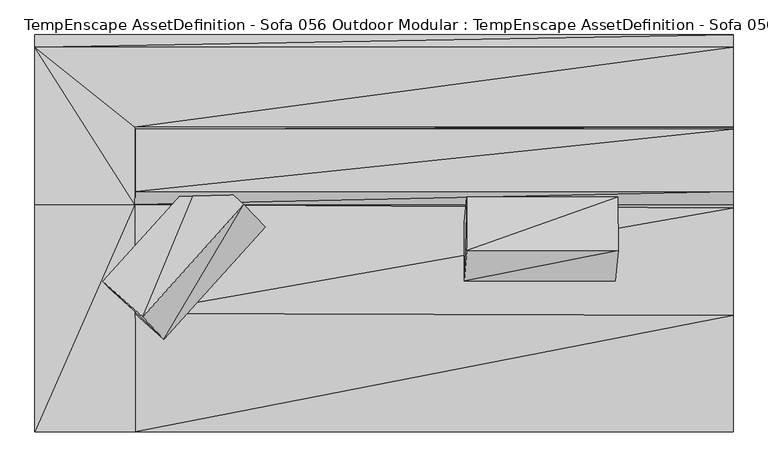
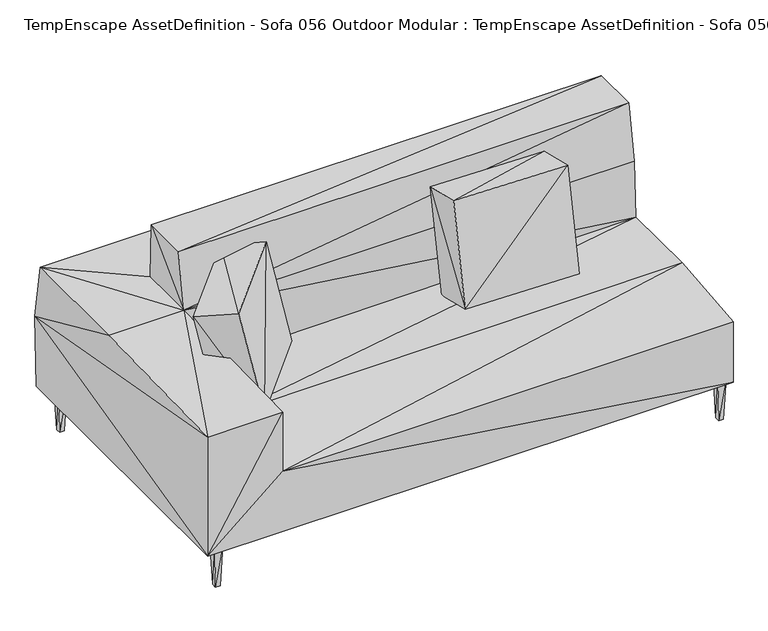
"""IFC4 building model written with IfcOpenShell, lengths in millimetres: geographic element geometry, TempEnscape AssetDefinition - Sofa 056 Outdoor Modular : TempEnscape AssetDefinition - Sofa 056 Outdoor Modular."""

from ifc_helpers import new_model, si_unit, origin, place, context, project, spatial, faceted_brep, source, transform, mapped, element, save


def tempenscape_assetdefinition_sofa_056_outdoor_modular_8e18e6f5(model_context):
    return source(origin(), model_context, "Body", "Brep", [
        faceted_brep([(1077.4931908, -607.9865694, 434.7889721), (1077.4931908, -607.9865694, 172.9710698), (1077.4931908, -249.3578792, 472.4326134), (-764.4739151, -607.9865694, 431.7268133), (-1072.8787184, -607.9865694, 172.9710698), (-1072.8787184, 605.2621603, 172.9710698), (1077.4931908, 605.2621603, 172.9710698), (-764.6126151, -243.2522774, 459.1667354), (1077.4931908, 81.6349834, 467.4313068), (-764.5629644, -607.9865098, 687.379539), (-764.7407651, 93.3756679, 444.7478354), (1077.4931908, 615.9551144, 467.4313068), (1077.4931908, 93.3756232, 703.4626603), (-764.7407651, 93.3756679, 703.4626007), (-1072.8787184, 615.955174, 467.4313068), (-1072.8787184, 577.5209069, 703.4626007), (1077.4931908, 331.728965, 703.4626603), (1077.4931908, 577.8821707, 703.4626603), (1077.4931908, 133.0335736, 932.7055812), (1077.4931908, 324.8817325, 932.7055812), (-764.6425366, 332.1499527, 703.4626007), (-764.384985, 324.8818219, 932.7055812), (-1072.8787184, 93.3756679, 703.4626007), (-1072.8787184, -607.9865694, 687.379539), (-764.384985, 133.0336183, 932.7055216)], [[[0, 1, 2]], [[3, 4, 1]], [[1, 4, 5]], [[2, 1, 6]], [[3, 1, 0]], [[1, 5, 6]], [[2, 3, 0]], [[2, 7, 3]], [[8, 7, 2]], [[2, 6, 8]], [[4, 3, 9]], [[7, 9, 3]], [[8, 10, 7]], [[10, 9, 7]], [[8, 6, 11]], [[8, 12, 13]], [[11, 12, 8]], [[8, 13, 10]], [[11, 6, 5]], [[14, 5, 4]], [[11, 5, 14]], [[11, 14, 15]], [[16, 11, 17]], [[11, 16, 12]], [[11, 15, 17]], [[16, 18, 12]], [[18, 13, 12]], [[16, 19, 18]], [[16, 20, 21]], [[16, 21, 19]], [[17, 20, 16]], [[17, 15, 20]], [[21, 20, 13]], [[15, 13, 20]], [[15, 14, 22]], [[15, 22, 13]], [[13, 22, 23]], [[14, 23, 22]], [[14, 4, 23]], [[4, 9, 23]], [[13, 23, 9]], [[10, 13, 9]], [[18, 24, 13]], [[21, 13, 24]], [[24, 19, 21]], [[24, 18, 19]]]),
        faceted_brep([(714.5272493, 21.38336, 448.2150972), (248.4834939, 21.38336, 457.2862387), (722.4889398, 116.4804026, 857.2618365), (249.2286712, -143.3562487, 495.5711663), (715.272367, -143.3562487, 486.5000248), (256.4452291, 116.4804026, 866.3329482), (723.234117, -48.2592247, 895.5467343), (257.1904063, -48.2592247, 904.617846)], [[[0, 1, 2]], [[3, 1, 4]], [[2, 1, 5]], [[4, 1, 0]], [[3, 5, 1]], [[6, 2, 7]], [[6, 0, 2]], [[7, 2, 5]], [[4, 0, 6]], [[6, 3, 4]], [[7, 3, 6]], [[7, 5, 3]]]),
        faceted_brep([(-486.6147339, 132.6645464, 434.7928166), (-798.4775901, -213.6565149, 443.8639283), (-551.954329, 202.2171617, 843.8395262), (-675.5595803, -323.3417273, 482.1488559), (-363.6966348, 22.9793359, 473.0777144), (-863.8173342, -144.1038996, 852.9106975), (-429.0363193, 92.5319567, 882.124424), (-740.8992052, -253.7890971, 891.1955357)], [[[0, 1, 2]], [[3, 1, 4]], [[2, 1, 5]], [[4, 1, 0]], [[3, 5, 1]], [[6, 2, 7]], [[6, 0, 2]], [[7, 2, 5]], [[4, 0, 6]], [[6, 3, 4]], [[7, 3, 6]], [[7, 5, 3]]]),
        faceted_brep([(1056.7195415, -574.5255947, 0.0), (1037.4796391, -574.5255947, 0.0), (1056.7195415, -554.671526, 0.0), (1030.4379463, -581.7919374, 179.7984391), (1063.7612343, -581.7919374, 179.7984391), (1037.4796391, -554.671526, 0.0), (1063.7612343, -547.4051833, 179.7984391), (1030.4379463, -547.4051833, 179.7984391)], [[[0, 1, 2]], [[3, 1, 4]], [[2, 1, 5]], [[4, 1, 0]], [[3, 5, 1]], [[6, 2, 7]], [[6, 0, 2]], [[7, 2, 5]], [[4, 0, 6]], [[6, 3, 4]], [[7, 3, 6]], [[7, 5, 3]]]),
        faceted_brep([(1056.7195415, 530.4129124, 0.0), (1037.4796391, 530.4129124, 0.0), (1056.7195415, 550.2669215, 0.0), (1030.4379463, 523.1465101, 179.7984391), (1063.7612343, 523.1465101, 179.7984391), (1037.4796391, 550.2669215, 0.0), (1063.7612343, 557.5333238, 179.7984391), (1030.4379463, 557.5333238, 179.7984391)], [[[0, 1, 2]], [[3, 1, 4]], [[2, 1, 5]], [[4, 1, 0]], [[3, 5, 1]], [[6, 2, 7]], [[6, 0, 2]], [[7, 2, 5]], [[4, 0, 6]], [[6, 3, 4]], [[7, 3, 6]], [[7, 5, 3]]]),
        faceted_brep([(-1002.212286, -574.5255947, 0.0), (-1021.4521885, -574.5255947, 0.0), (-1002.212286, -554.671526, 0.0), (-1028.4938812, -581.7919374, 179.7984391), (-995.1705933, -581.7919374, 179.7984391), (-1021.4521885, -554.671526, 0.0), (-995.1705933, -547.4051833, 179.7984391), (-1028.4938812, -547.4051833, 179.7984391)], [[[0, 1, 2]], [[3, 1, 4]], [[2, 1, 5]], [[4, 1, 0]], [[3, 5, 1]], [[6, 2, 7]], [[6, 0, 2]], [[7, 2, 5]], [[4, 0, 6]], [[6, 3, 4]], [[7, 3, 6]], [[7, 5, 3]]]),
        faceted_brep([(-1002.212286, 530.4129124, 0.0), (-1021.4521885, 530.4129124, 0.0), (-1002.212286, 550.2669215, 0.0), (-1028.4938812, 523.1465101, 179.7984391), (-995.1705933, 523.1465101, 179.7984391), (-1021.4521885, 550.2669215, 0.0), (-995.1705933, 557.5333238, 179.7984391), (-1028.4938812, 557.5333238, 179.7984391)], [[[0, 1, 2]], [[3, 1, 4]], [[2, 1, 5]], [[4, 1, 0]], [[3, 5, 1]], [[6, 2, 7]], [[6, 0, 2]], [[7, 2, 5]], [[4, 0, 6]], [[6, 3, 4]], [[7, 3, 6]], [[7, 5, 3]]]),
    ])


if __name__ == "__main__":
    model = new_model("IFC4")
    model_context = context("Model", 3, world=origin())
    ifc_project = project(units=[si_unit("LENGTHUNIT", "METRE", prefix="MILLI")], contexts=[model_context])
    site = spatial("IfcSite", under=ifc_project)
    building = spatial("IfcBuilding", under=site)
    placement = place(None, origin())
    tempenscape_assetdefinition_sofa_056_outdoor_modular_shape = tempenscape_assetdefinition_sofa_056_outdoor_modular_8e18e6f5(model_context)
    element("IfcGeographicElement", 1, ObjectType="TempEnscape AssetDefinition - Sofa 056 Outdoor Modular : TempEnscape AssetDefinition - Sofa 056 Outdoor Modular", at=placement, inside=building, context=model_context, shape_type="MappedRepresentation", body=[
        mapped(tempenscape_assetdefinition_sofa_056_outdoor_modular_shape, transform((0.0, 0.0, 0.0), x_axis=(1.0, 0.0, 0.0), y_axis=(0.0, 1.0, 0.0), z_axis=(0.0, 0.0, 1.0))),
    ])
    save(model, "model.ifc")
